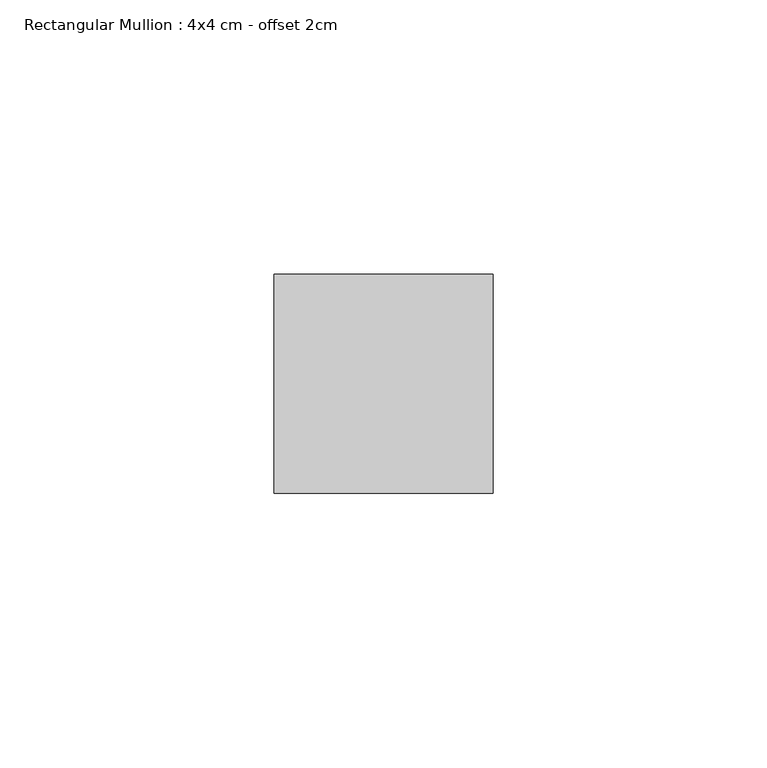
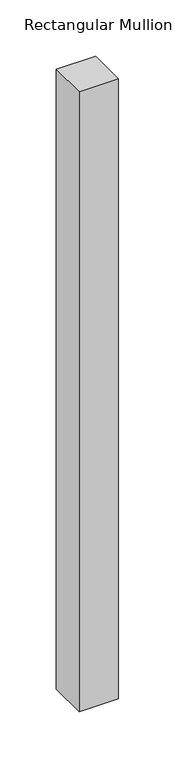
"""IFC4 building model written with IfcOpenShell, lengths in millimetres: member geometry, Rectangular Mullion : 4x4 cm - offset 2cm."""

from ifc_helpers import new_model, si_unit, frame, origin, place, context, project, spatial, polyline, outline, extrude, source, transform, mapped, element, save


def rectangular_mullion_4x4_cm_offset_2cm_64f9428f(model_context):
    return source(origin(), model_context, "Body", "SweptSolid", [
        extrude(outline(polyline([(40.0, 0.0), (40.0, -40.0), (0.0, -40.0), (0.0, 0.0), (40.0, 0.0)])), frame((0.0, 0.0, -670.0), z_axis=(0.0, 0.0, 1.0), x_axis=(1.0, 0.0, 0.0)), (0.0, 0.0, 1.0), 670.0),
    ])


if __name__ == "__main__":
    model = new_model("IFC4")
    model_context = context("Model", 3, world=origin())
    ifc_project = project(units=[si_unit("LENGTHUNIT", "METRE", prefix="MILLI")], contexts=[model_context])
    site = spatial("IfcSite", under=ifc_project)
    building = spatial("IfcBuilding", under=site)
    placement = place(None, origin())
    rectangular_mullion_4x4_cm_offset_2cm_shape = rectangular_mullion_4x4_cm_offset_2cm_64f9428f(model_context)
    element("IfcMember", 1, ObjectType="Rectangular Mullion : 4x4 cm - offset 2cm", at=placement, inside=building, context=model_context, shape_type="MappedRepresentation", body=[
        mapped(rectangular_mullion_4x4_cm_offset_2cm_shape, transform((0.0, 0.0, 0.0), x_axis=(1.0, 0.0, 0.0), y_axis=(0.0, 1.0, 0.0), z_axis=(0.0, 0.0, 1.0))),
    ])
    save(model, "model.ifc")
